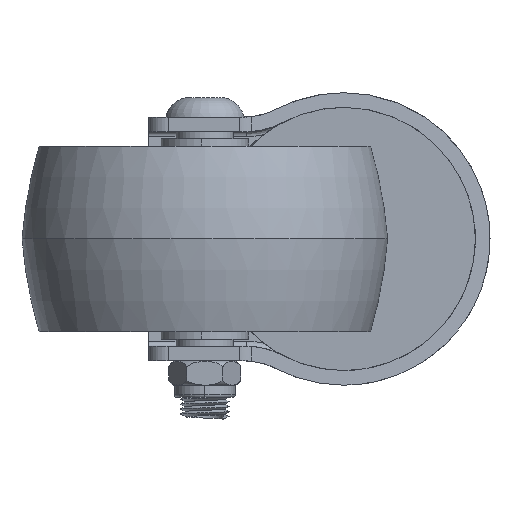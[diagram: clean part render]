
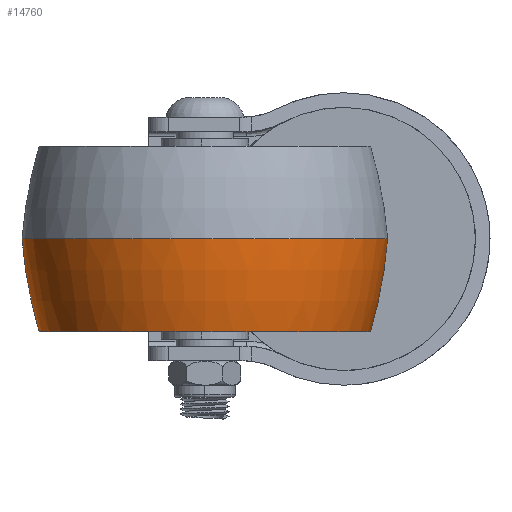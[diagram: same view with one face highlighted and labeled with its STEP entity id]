
A CAD part, front view. The second image highlights one B-rep face of the part: STEP entity #14760.
In plain terms, the highlighted toroidal (fillet/blend) face has major radius 58.182 mm and minor radius 96 mm.
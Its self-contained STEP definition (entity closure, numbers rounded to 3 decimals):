
#535 = DIRECTION ( 'NONE',  ( 0., 0., 1. ) ) ;
#1205 = CIRCLE ( 'NONE', #13508, 37.5 ) ;
#1310 = DIRECTION ( 'NONE',  ( 1., 0., 0. ) ) ;
#1332 = ORIENTED_EDGE ( 'NONE', *, *, #14402, .F. ) ;
#1442 = CIRCLE ( 'NONE', #16800, 96. ) ;
#1960 = CARTESIAN_POINT ( 'NONE',  ( 37.5, 0., 0. ) ) ;
#1998 = ORIENTED_EDGE ( 'NONE', *, *, #8006, .F. ) ;
#2589 = CARTESIAN_POINT ( 'NONE',  ( -37.5, 0., 0. ) ) ;
#3377 = DIRECTION ( 'NONE',  ( 0., 1., 0. ) ) ;
#3589 = FACE_OUTER_BOUND ( 'NONE', #18727, .T. ) ;
#3650 = ORIENTED_EDGE ( 'NONE', *, *, #15727, .T. ) ;
#4121 = CARTESIAN_POINT ( 'NONE',  ( 0., 0., 7.803 ) ) ;
#4283 = CARTESIAN_POINT ( 'NONE',  ( 34., 0., -19. ) ) ;
#4426 = CARTESIAN_POINT ( 'NONE',  ( 0., 0., -19. ) ) ;
#4550 = CIRCLE ( 'NONE', #9871, 34. ) ;
#4757 = VERTEX_POINT ( 'NONE', #2589 ) ;
#5794 = DIRECTION ( 'NONE',  ( 1., 0., 0. ) ) ;
#6345 = TOROIDAL_SURFACE ( 'NONE', #9623, -58.182, 96. ) ;
#6570 = CARTESIAN_POINT ( 'NONE',  ( -58.182, 0., 7.803 ) ) ;
#6964 = DIRECTION ( 'NONE',  ( 0., 0., -1. ) ) ;
#7942 = ORIENTED_EDGE ( 'NONE', *, *, #17342, .T. ) ;
#8006 = EDGE_CURVE ( 'NONE', #4757, #18624, #1205, .T. ) ;
#8675 = CARTESIAN_POINT ( 'NONE',  ( 58.182, 0., 7.803 ) ) ;
#8851 = VERTEX_POINT ( 'NONE', #4283 ) ;
#9010 = AXIS2_PLACEMENT_3D ( 'NONE', #6570, #3377, #535 ) ;
#9623 = AXIS2_PLACEMENT_3D ( 'NONE', #4121, #6964, #1310 ) ;
#9871 = AXIS2_PLACEMENT_3D ( 'NONE', #4426, #16201, #14654 ) ;
#11406 = DIRECTION ( 'NONE',  ( 1., 0., 0. ) ) ;
#12420 = CARTESIAN_POINT ( 'NONE',  ( -34., 0., -19. ) ) ;
#13508 = AXIS2_PLACEMENT_3D ( 'NONE', #14358, #17237, #11406 ) ;
#14358 = CARTESIAN_POINT ( 'NONE',  ( 0., 0., 0. ) ) ;
#14402 = EDGE_CURVE ( 'NONE', #18624, #8851, #18724, .T. ) ;
#14654 = DIRECTION ( 'NONE',  ( 1., 0., 0. ) ) ;
#14760 = ADVANCED_FACE ( 'NONE', ( #3589 ), #6345, .T. ) ;
#15727 = EDGE_CURVE ( 'NONE', #16486, #8851, #4550, .T. ) ;
#16201 = DIRECTION ( 'NONE',  ( 0., 0., 1. ) ) ;
#16486 = VERTEX_POINT ( 'NONE', #12420 ) ;
#16800 = AXIS2_PLACEMENT_3D ( 'NONE', #8675, #18930, #5794 ) ;
#17237 = DIRECTION ( 'NONE',  ( 0., 0., 1. ) ) ;
#17342 = EDGE_CURVE ( 'NONE', #4757, #16486, #1442, .T. ) ;
#18624 = VERTEX_POINT ( 'NONE', #1960 ) ;
#18724 = CIRCLE ( 'NONE', #9010, 96. ) ;
#18727 = EDGE_LOOP ( 'NONE', ( #1998, #7942, #3650, #1332 ) ) ;
#18930 = DIRECTION ( 'NONE',  ( 0., -1., 0. ) ) ;
